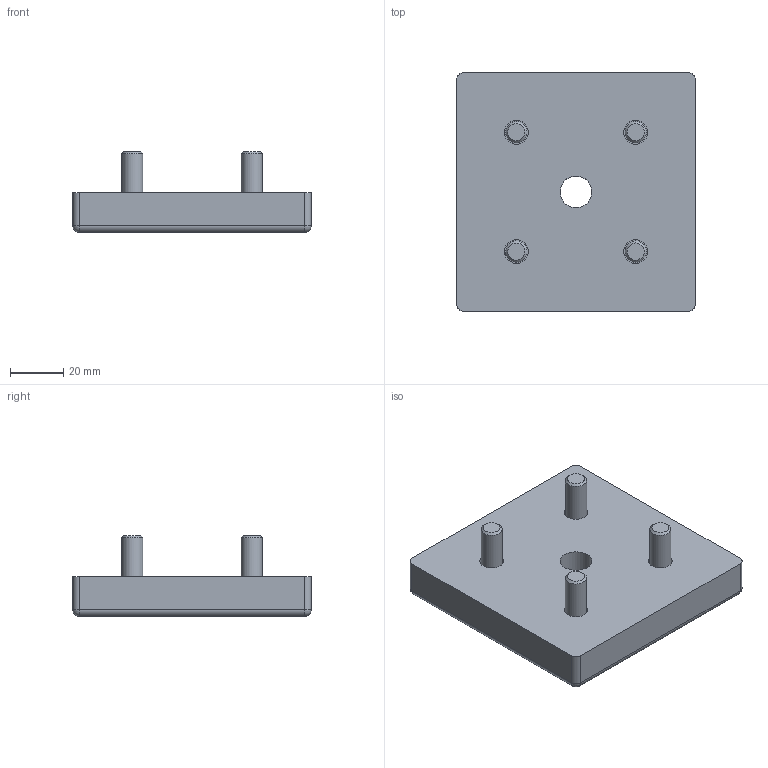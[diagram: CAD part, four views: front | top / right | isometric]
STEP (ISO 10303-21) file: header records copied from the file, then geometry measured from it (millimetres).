
FILE_DESCRIPTION((''),'2;1');
FILE_NAME('C:\Documents and Settings\Administrator\My Documents\Andys Backup Data\ANDY''S INVENTOR\INVENTOR LIBRARIES\MINITEC INVENTOR LIBRARIES\FEET WHEELS FLOOR FASTENING SUPPORTS\A PACKED FILES\STEP FILES\21.1042 BASE PLATE 90X90 M12.stp','2010-06-28T08:00:39',('Administrator'),(''),'Autodesk Inventor 2009','Autodesk Inventor 2009','');
FILE_SCHEMA(('CONFIG_CONTROL_DESIGN'));
Length unit declared in the file: millimetre
Products named in the file (3): 21.1042 BASE PLATE 90X90 M12; 21.1204  M8 x 25
Assembly tree (5 placements, depth 2):
  21.1042 BASE PLATE 90X90 M12
    21.1042 BASE PLATE 90X90 M12
    21.1204  M8 x 25  x4
Bounding box: 90 x 90 x 30.5 mm (x, y, z)
Volume: 120192.2 mm3; surface area: 27655 mm2
Topology: 5 solids, 5 shells, 87 faces, 187 edges, 114 vertices
Faces by surface type: plane 42, cylinder 21, bspline 8, cone 8, sphere 4, torus 4
Full cylindrical faces by diameter (mm): 8 x4, 9 x4, 12 x1, 13 x4
Entity records: 1270 total; most frequent: CARTESIAN_POINT 279, DIRECTION 202, ORIENTED_EDGE 156, AXIS2_PLACEMENT_3D 85, EDGE_CURVE 78, EDGE_LOOP 74, VERTEX_POINT 56, FACE_OUTER_BOUND 45
